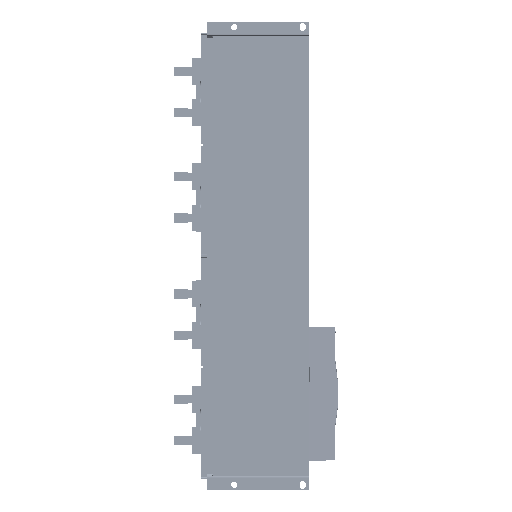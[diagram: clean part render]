
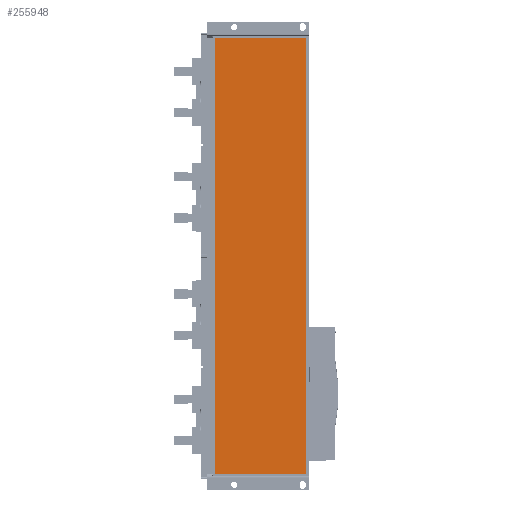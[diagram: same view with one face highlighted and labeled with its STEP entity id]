
A CAD part, front view. The second image highlights one B-rep face of the part: STEP entity #255948.
In plain terms, the highlighted planar face has unit normal (0, -1, 0).
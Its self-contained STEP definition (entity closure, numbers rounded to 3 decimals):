
#1881 = LINE ( 'NONE', #105982, #89662 ) ;
#6015 = ORIENTED_EDGE ( 'NONE', *, *, #73818, .T. ) ;
#14934 = CARTESIAN_POINT ( 'NONE',  ( -75.153, 48.029, -172.982 ) ) ;
#15734 = VECTOR ( 'NONE', #210671, 1000. ) ;
#36000 = ORIENTED_EDGE ( 'NONE', *, *, #152608, .T. ) ;
#42079 = DIRECTION ( 'NONE',  ( 0., 0., 1. ) ) ;
#57650 = FACE_OUTER_BOUND ( 'NONE', #158827, .T. ) ;
#73818 = EDGE_CURVE ( 'NONE', #307684, #215923, #125256, .T. ) ;
#83832 = ORIENTED_EDGE ( 'NONE', *, *, #147590, .T. ) ;
#87759 = CARTESIAN_POINT ( 'NONE',  ( -275.153, 48.029, -166.982 ) ) ;
#89662 = VECTOR ( 'NONE', #277268, 1000. ) ;
#103262 = DIRECTION ( 'NONE',  ( 1., 0., 0. ) ) ;
#105982 = CARTESIAN_POINT ( 'NONE',  ( -275.153, 48.029, 783.018 ) ) ;
#107590 = EDGE_CURVE ( 'NONE', #265501, #215923, #314963, .T. ) ;
#121686 = AXIS2_PLACEMENT_3D ( 'NONE', #288105, #164991, #42079 ) ;
#124051 = LINE ( 'NONE', #128682, #246593 ) ;
#125256 = LINE ( 'NONE', #180233, #297520 ) ;
#128682 = CARTESIAN_POINT ( 'NONE',  ( -275.153, 48.029, 789.018 ) ) ;
#140441 = PLANE ( 'NONE',  #121686 ) ;
#147590 = EDGE_CURVE ( 'NONE', #265501, #158604, #1881, .T. ) ;
#152608 = EDGE_CURVE ( 'NONE', #158604, #307684, #124051, .T. ) ;
#153778 = ORIENTED_EDGE ( 'NONE', *, *, #107590, .F. ) ;
#158604 = VERTEX_POINT ( 'NONE', #309458 ) ;
#158827 = EDGE_LOOP ( 'NONE', ( #83832, #36000, #6015, #153778 ) ) ;
#159492 = DIRECTION ( 'NONE',  ( 0., 0., -1. ) ) ;
#164991 = DIRECTION ( 'NONE',  ( 0., -1., 0. ) ) ;
#173894 = CARTESIAN_POINT ( 'NONE',  ( -75.153, 48.029, 783.018 ) ) ;
#180233 = CARTESIAN_POINT ( 'NONE',  ( -75.153, 48.029, -166.982 ) ) ;
#210671 = DIRECTION ( 'NONE',  ( 0., 0., -1. ) ) ;
#215923 = VERTEX_POINT ( 'NONE', #291627 ) ;
#246593 = VECTOR ( 'NONE', #159492, 1000. ) ;
#255948 = ADVANCED_FACE ( 'NONE', ( #57650 ), #140441, .T. ) ;
#265501 = VERTEX_POINT ( 'NONE', #173894 ) ;
#277268 = DIRECTION ( 'NONE',  ( -1., 0., 0. ) ) ;
#288105 = CARTESIAN_POINT ( 'NONE',  ( -70.153, 48.029, 308.018 ) ) ;
#291627 = CARTESIAN_POINT ( 'NONE',  ( -75.153, 48.029, -166.982 ) ) ;
#297520 = VECTOR ( 'NONE', #103262, 1000. ) ;
#307684 = VERTEX_POINT ( 'NONE', #87759 ) ;
#309458 = CARTESIAN_POINT ( 'NONE',  ( -275.153, 48.029, 783.018 ) ) ;
#314963 = LINE ( 'NONE', #14934, #15734 ) ;
